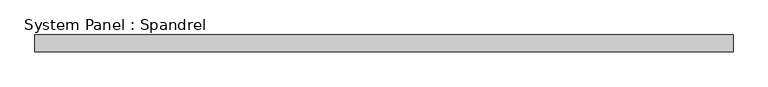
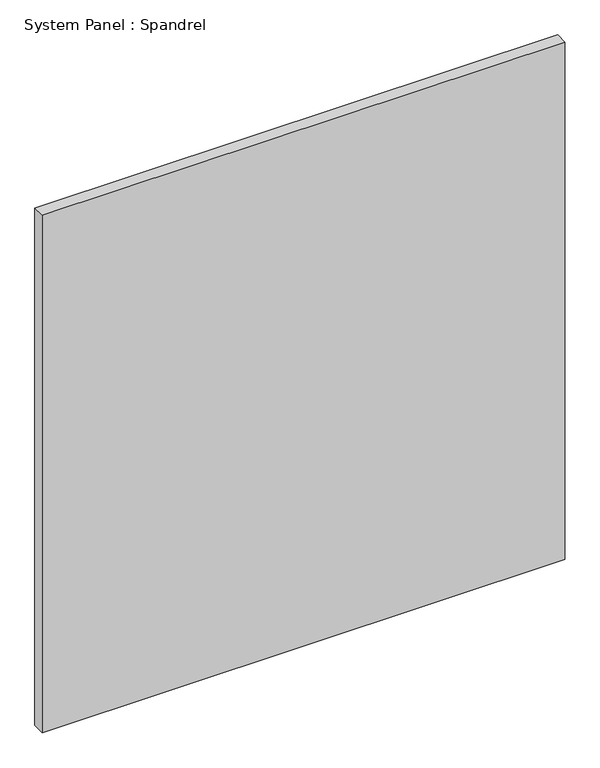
"""IFC4 building model written with IfcOpenShell, lengths in millimetres: plate geometry, System Panel : Spandrel."""

from ifc_helpers import new_model, si_unit, origin, origin_with_axes, place, context, project, spatial, polyline, outline, extrude, source, transform, mapped, element, save


def system_panel_spandrel_9372fb1b(model_context):
    return source(origin(), model_context, "Body", "SweptSolid", [
        extrude(outline(polyline([(525.0000002, 0.0), (-525.0000002, 0.0), (-525.0000002, 25.0), (525.0000002, 25.0), (525.0000002, 0.0)])), origin_with_axes(), (0.0, 0.0, 1.0), 1100.0),
    ])


if __name__ == "__main__":
    model = new_model("IFC4")
    model_context = context("Model", 3, world=origin())
    ifc_project = project(units=[si_unit("LENGTHUNIT", "METRE", prefix="MILLI")], contexts=[model_context])
    site = spatial("IfcSite", under=ifc_project)
    building = spatial("IfcBuilding", under=site)
    placement = place(None, origin())
    system_panel_spandrel_shape = system_panel_spandrel_9372fb1b(model_context)
    element("IfcPlate", 1, ObjectType="System Panel : Spandrel", at=placement, inside=building, context=model_context, shape_type="MappedRepresentation", body=[
        mapped(system_panel_spandrel_shape, transform((0.0, 0.0, 0.0), x_axis=(1.0, 0.0, 0.0), y_axis=(0.0, 1.0, 0.0), z_axis=(0.0, 0.0, 1.0))),
    ])
    save(model, "model.ifc")
